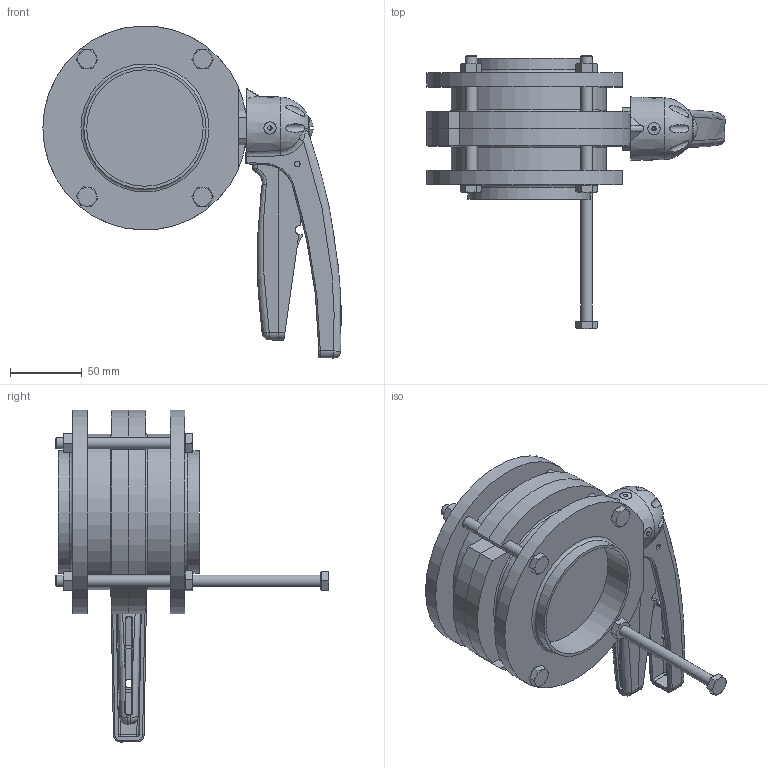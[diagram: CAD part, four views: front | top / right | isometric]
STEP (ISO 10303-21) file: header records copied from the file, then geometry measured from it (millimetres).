
FILE_DESCRIPTION(/* description */ ('VVF VALV.FARF.DN80(85X2) WAF4 316 EPDM LEVA 5POS.'),/* implementation_level */ '2;1');
FILE_NAME(/* name */ 'BEBAC6080BEAA-00^SAGOMA.step',/* time_stamp */ '2026-07-08T13:55:40+02:00',/* author */ ('malp-m'),/* organization */ (''),/* preprocessor_version */ 'ST-DEVELOPER v20.1',/* originating_system */ 'Autodesk Inventor 2026',/* authorisation */ '');
FILE_SCHEMA (('CONFIG_CONTROL_DESIGN'));
Length unit declared in the file: millimetre
Products named in the file (6): BEBAC6080BEAA; Maniglia-5-posizioni-nuova-versione finale 01-2008- 25 - - 65; MEZZO-COR-DN080-WAFER-4; FLANGIA-DN85x2-WAFER-4; UNI 5588 - M8; UNI 5738 - M8 x 1 x 90
Assembly tree (14 placements, depth 2):
  BEBAC6080BEAA
    Maniglia-5-posizioni-nuova-versione finale 01-2008- 25 - - 65
    FLANGIA-DN85x2-WAFER-4  x2
    MEZZO-COR-DN080-WAFER-4  x2
    UNI 5588 - M8  x4
    UNI 5738 - M8 x 1 x 90  x5
Bounding box: 207.51 x 190 x 230.95 mm (x, y, z)
Volume: 1022296.3 mm3; surface area: 224226.6 mm2
Topology: 14 solids, 15 shells, 649 faces, 1584 edges, 990 vertices
Faces by surface type: plane 288, cylinder 130, cone 119, bspline 81, sphere 18, torus 13
Full cylindrical faces by diameter (mm): 4 x3, 6 x2, 6.2 x4, 6.5 x1, 6.647 x4, 8 x5, 8.5 x12, 12.2 x5, 13 x1, 14.5 x1, 81 x2, 85 x2, 108 x2
Entity records: 23832 total; most frequent: CARTESIAN_POINT 12292, ORIENTED_EDGE 2418, DIRECTION 2097, EDGE_CURVE 1209, VERTEX_POINT 763, AXIS2_PLACEMENT_3D 761, LINE 575, VECTOR 575
